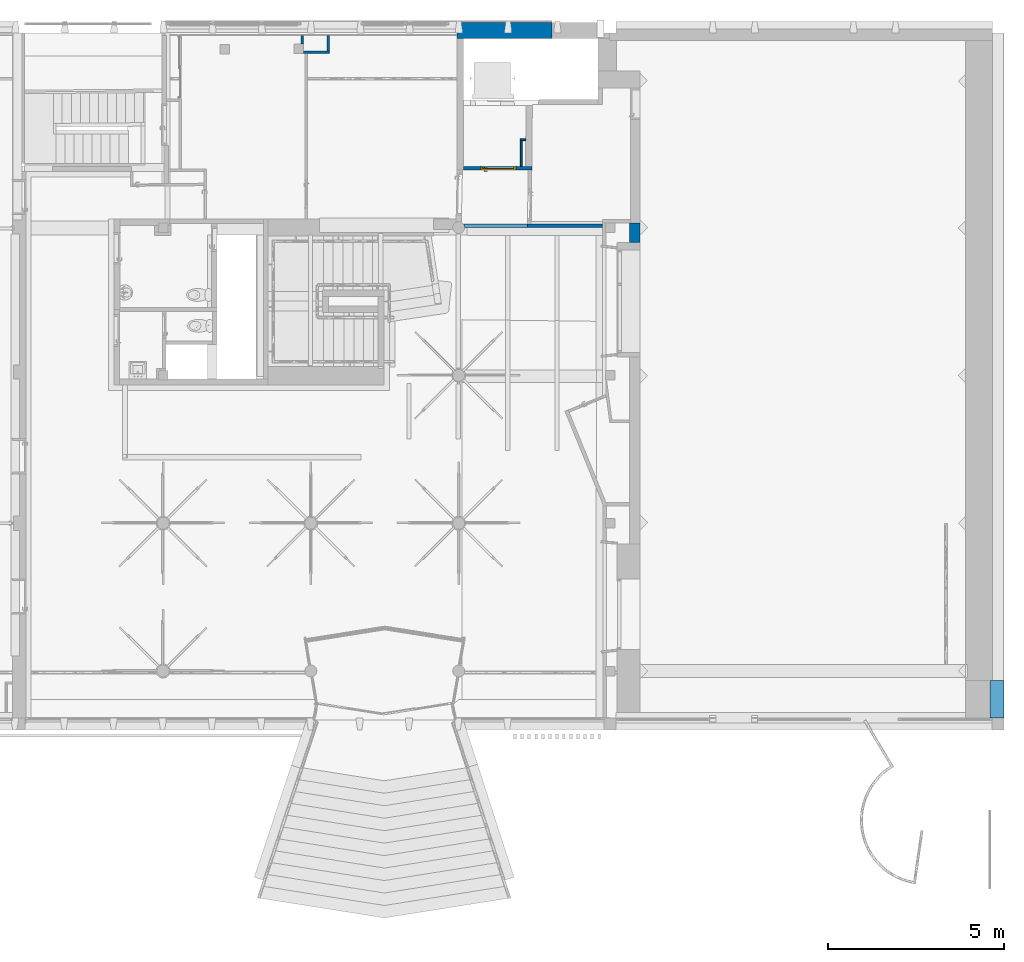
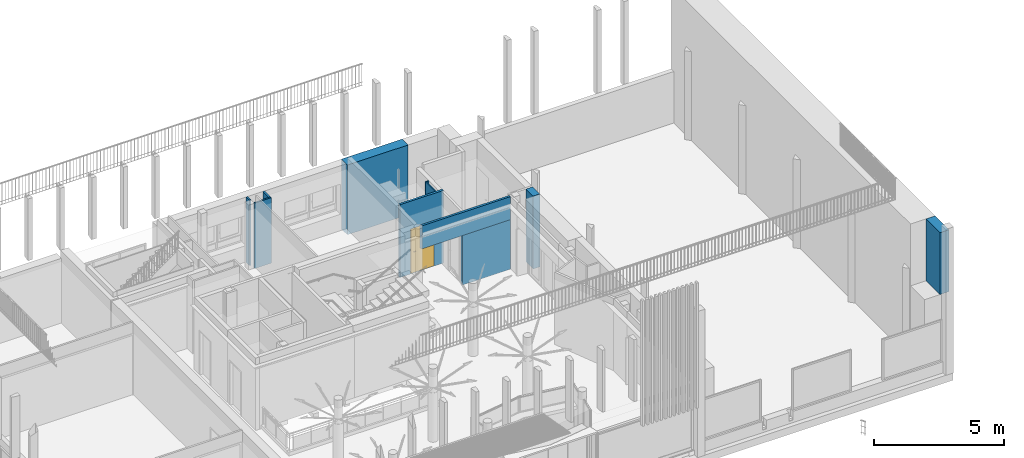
# One storey, part 22 of 65: 11 walls, 1 door, 1 opening.
"""IFC4 building model written with IfcOpenShell, lengths in metres."""

import ifcopenshell
import ifcopenshell.guid

model = None  # the IFC model being written
_history = None  # IfcOwnerHistory: only IFC2X3 demands one
_inside = {}  # id of a spatial element -> (the spatial element, [elements in it])
_under = {}  # id of a project, library or spatial element -> (it, [spatial elements below it])
_declared = {}  # id of a project -> (the project, [libraries it declares])
_typed = {}  # id of a type object -> (the type object, [elements of that type])
_made_of = {}  # id of a material, layer set ... -> (it, [elements and type objects made of it])


def new_model(schema):
    """Start an empty IFC model of exactly this schema.

    Asked for "IFC4X3", IfcOpenShell would pick the latest addendum, in which some entities
    have other attributes; the version numbers below select the first issue.
    IFC2X3 requires an IfcOwnerHistory on every rooted entity: one is made here for all.
    """
    global model, _history
    if schema == "IFC4X3":
        model = ifcopenshell.file(schema_version=(4, 3, 0, 0))
    else:
        model = ifcopenshell.file(schema=schema)
    _inside.clear()
    _under.clear()
    _declared.clear()
    _typed.clear()
    _made_of.clear()
    _history = None
    if model.schema == "IFC2X3":
        org = make("IfcOrganization", Name="unknown")
        user = make(
            "IfcPersonAndOrganization",
            ThePerson=make("IfcPerson", FamilyName="unknown"),
            TheOrganization=org,
        )
        app = make(
            "IfcApplication",
            ApplicationDeveloper=org,
            Version="unknown",
            ApplicationFullName="unknown",
            ApplicationIdentifier="unknown",
        )
        _history = make(
            "IfcOwnerHistory",
            OwningUser=user,
            OwningApplication=app,
            ChangeAction="ADDED",
            CreationDate=0,
        )
    return model


def make(cls, **values):
    """One entity of the class cls with the attributes given. An attribute that is None is left unset."""
    return model.create_entity(
        cls, **{name: value for name, value in values.items() if value is not None}
    )


def entity(cls, *values):
    """Any entity or typed value of the class cls, its attributes in the order of the schema. None: left unset."""
    e = model.create_entity(cls)
    for i, value in enumerate(values):
        if value is not None:
            e[i] = value
    return e


def rooted(cls, **values):
    """An entity with a GlobalId (a new one), such as an element, a storey or a relation."""
    return make(cls, GlobalId=ifcopenshell.guid.new(), OwnerHistory=_history, **values)


def si_unit(unit_type, name, prefix=None):
    """IfcSIUnit, for example si_unit("LENGTHUNIT", "METRE", prefix="MILLI")."""
    return make("IfcSIUnit", UnitType=unit_type, Prefix=prefix, Name=name)


def converted_unit(unit_type, name, factor, base, dimensions=None, offset=None):
    """IfcConversionBasedUnit, such as the inch: factor (a typed value) times the base unit."""
    return make(
        "IfcConversionBasedUnit"
        if offset is None
        else "IfcConversionBasedUnitWithOffset",
        ConversionOffset=offset,
        Dimensions=None
        if dimensions is None
        else entity("IfcDimensionalExponents", *dimensions),
        UnitType=unit_type,
        Name=name,
        ConversionFactor=make(
            "IfcMeasureWithUnit", ValueComponent=factor, UnitComponent=base
        ),
    )


def derived_unit(unit_type, elements):
    """IfcDerivedUnit: a product of units, each with its exponent."""
    return make(
        "IfcDerivedUnit",
        Elements=[
            make("IfcDerivedUnitElement", Unit=unit, Exponent=power)
            for unit, power in elements
        ],
        UnitType=unit_type,
    )


def assignment(units):
    """IfcUnitAssignment: the units of a project."""
    return None if units is None else make("IfcUnitAssignment", Units=units)


def point(xyz):
    """IfcCartesianPoint."""
    return None if xyz is None else make("IfcCartesianPoint", Coordinates=xyz)


def direction(xyz):
    """IfcDirection."""
    return None if xyz is None else make("IfcDirection", DirectionRatios=xyz)


def frame(location, z_axis=None, x_axis=None):
    """IfcAxis2Placement3D, a coordinate frame: its origin and axes. An axis left out is left unset."""
    return make(
        "IfcAxis2Placement3D",
        Location=point(location),
        Axis=direction(z_axis),
        RefDirection=direction(x_axis),
    )


def origin():
    """The frame at (0, 0, 0) with its axes left unset."""
    return frame((0.0, 0.0, 0.0))


def place(relative_to, where):
    """IfcLocalPlacement: puts the frame where relative to a parent placement (None: the world)."""
    return make(
        "IfcLocalPlacement", PlacementRelTo=relative_to, RelativePlacement=where
    )


def context(
    kind, dimensions, precision=None, world=None, true_north=None, identifier=None
):
    """IfcGeometricRepresentationContext, for example the 3D "Model" context."""
    return make(
        "IfcGeometricRepresentationContext",
        ContextIdentifier=identifier,
        ContextType=kind,
        CoordinateSpaceDimension=dimensions,
        Precision=precision,
        WorldCoordinateSystem=world,
        TrueNorth=true_north,
    )


def subcontext(parent, identifier, kind, view, scale=None):
    """IfcGeometricRepresentationSubContext, for example "Body" below "Model"."""
    return make(
        "IfcGeometricRepresentationSubContext",
        ContextIdentifier=identifier,
        ContextType=kind,
        ParentContext=parent,
        TargetScale=scale,
        TargetView=view,
    )


def project(units=None, contexts=None):
    """IfcProject with its units and contexts."""
    return rooted(
        "IfcProject",
        Name="project",
        RepresentationContexts=contexts,
        UnitsInContext=assignment(units),
    )


def spatial(cls, under=None, at=None, **own):
    """A site, building, storey or space (cls), placed at a placement, below another one or the project."""
    s = rooted(cls, ObjectPlacement=at, **own)
    if under is not None:
        _under.setdefault(under.id(), (under, []))[1].append(s)
    return s


def point_list(points):
    """IfcCartesianPointList2D or 3D."""
    cls = (
        "IfcCartesianPointList2D" if len(points[0]) == 2 else "IfcCartesianPointList3D"
    )
    return make(cls, CoordList=points)


def indexed_curve(points, segments=None, self_intersect=None):
    """IfcIndexedPolyCurve: lines and arcs through numbered points (the first is 1)."""
    return make(
        "IfcIndexedPolyCurve",
        Points=point_list(points),
        Segments=segments,
        SelfIntersect=self_intersect,
    )


def outline(outer, holes=None, kind="AREA"):
    """IfcArbitraryClosedProfileDef: a profile drawn as a closed curve; with holes, ...WithVoids."""
    if holes is None:
        return make("IfcArbitraryClosedProfileDef", ProfileType=kind, OuterCurve=outer)
    return make(
        "IfcArbitraryProfileDefWithVoids",
        ProfileType=kind,
        OuterCurve=outer,
        InnerCurves=holes,
    )


def extrude(swept, where, along, depth):
    """IfcExtrudedAreaSolid: the profile swept, set in the frame where, extruded along a direction by depth."""
    return make(
        "IfcExtrudedAreaSolid",
        SweptArea=swept,
        Position=where,
        ExtrudedDirection=direction(along),
        Depth=depth,
    )


def polygons(points, faces, closed=None, point_numbers=None):
    """IfcPolygonalFaceSet: a face is its outer loop, then its inner loops; points numbered from 1."""
    made = []
    for loops in faces:
        if len(loops) == 1:
            made.append(make("IfcIndexedPolygonalFace", CoordIndex=loops[0]))
        else:
            made.append(
                make(
                    "IfcIndexedPolygonalFaceWithVoids",
                    CoordIndex=loops[0],
                    InnerCoordIndices=loops[1:],
                )
            )
    return make(
        "IfcPolygonalFaceSet",
        Coordinates=point_list(points),
        Closed=closed,
        Faces=made,
        PnIndex=point_numbers,
    )


def shape(context_of_items, identifier, shape_type, items):
    """IfcShapeRepresentation: the items that make up one representation, for example the "Body"."""
    return make(
        "IfcShapeRepresentation",
        ContextOfItems=context_of_items,
        RepresentationIdentifier=identifier,
        RepresentationType=shape_type,
        Items=items,
    )


def source(mapping_origin, context_of_items, identifier, shape_type, items):
    """IfcRepresentationMap: a shape defined once, which mapped items show again and again."""
    return make(
        "IfcRepresentationMap",
        MappingOrigin=mapping_origin,
        MappedRepresentation=shape(context_of_items, identifier, shape_type, items),
    )


def transform(
    local_origin,
    x_axis=None,
    y_axis=None,
    z_axis=None,
    scale=None,
    scale2=None,
    scale3=None,
    uniform=True,
):
    """IfcCartesianTransformationOperator3D, or its non-uniform kind. x_axis, y_axis, z_axis: its Axis1, 2, 3."""
    if uniform:
        return make(
            "IfcCartesianTransformationOperator3D",
            Axis1=direction(x_axis),
            Axis2=direction(y_axis),
            LocalOrigin=point(local_origin),
            Scale=scale,
            Axis3=direction(z_axis),
        )
    return make(
        "IfcCartesianTransformationOperator3DnonUniform",
        Axis1=direction(x_axis),
        Axis2=direction(y_axis),
        LocalOrigin=point(local_origin),
        Scale=scale,
        Axis3=direction(z_axis),
        Scale2=scale2,
        Scale3=scale3,
    )


def mapped(mapping_source, mapping_target):
    """IfcMappedItem: shows the shape of a source again, moved by a transform."""
    return make(
        "IfcMappedItem", MappingSource=mapping_source, MappingTarget=mapping_target
    )


def material(Name=None, Category=None):
    """IfcMaterial."""
    return make("IfcMaterial", Name=Name, Category=Category)


def material_list(materials):
    """IfcMaterialList."""
    return make("IfcMaterialList", Materials=materials)


def layer(
    of_material, thickness, ventilated=None, Name=None, Category=None, Priority=None
):
    """IfcMaterialLayer: one layer of a wall or slab, of a material (None: an air gap)."""
    return make(
        "IfcMaterialLayer",
        Material=of_material,
        LayerThickness=thickness,
        IsVentilated=ventilated,
        Name=Name,
        Category=Category,
        Priority=Priority,
    )


def layer_set(layers, Name=None):
    """IfcMaterialLayerSet."""
    return make("IfcMaterialLayerSet", MaterialLayers=layers, LayerSetName=Name)


def constituent(of_material, Name=None, Category=None, fraction=None):
    """IfcMaterialConstituent: one of the materials an element consists of."""
    return make(
        "IfcMaterialConstituent",
        Name=Name,
        Material=of_material,
        Fraction=fraction,
        Category=Category,
    )


def constituent_set(constituents=None, Name=None):
    """IfcMaterialConstituentSet."""
    return make(
        "IfcMaterialConstituentSet", Name=Name, MaterialConstituents=constituents
    )


def made_of(thing, what):
    """Note that an element or type object is made of a material, layer set ...; save() writes the relation."""
    if what is not None:
        _made_of.setdefault(what.id(), (what, []))[1].append(thing)
    return thing


def type_object(cls, material=None, **own):
    """A type object (cls), such as IfcWallType, which elements share."""
    return made_of(rooted(cls, **own), material)


def type_shapes(of_type, sources):
    """Give a type object the sources (RepresentationMaps) that its elements show as mapped items."""
    of_type.RepresentationMaps = sources


def element(
    cls,
    number,
    at=None,
    inside=None,
    cuts=None,
    type_object=None,
    material=None,
    context=None,
    identifier="Body",
    shape_type=None,
    held_by="IfcProductDefinitionShape",
    body=None,
    shapes=None,
    **own,
):
    """One element of the class cls, such as IfcWall. Its Tag is "e" and its number.

    at: its placement. inside: the storey or other place that contains it. cuts: it is an
    opening in that element (IfcRelVoidsElement). A single representation is given by context,
    identifier, shape_type and body (its items); several are given by shapes. held_by: the class
    of the entity that holds the representations. save() writes the other relations.
    """
    e = rooted(cls, Tag="e%d" % number, ObjectPlacement=at, **own)
    if body is not None:
        shapes = [shape(context, identifier, shape_type, body)]
    if shapes is not None:
        e.Representation = make(held_by, Representations=shapes)
    if inside is not None:
        _inside.setdefault(inside.id(), (inside, []))[1].append(e)
    if cuts is not None:
        rooted(
            "IfcRelVoidsElement", RelatingBuildingElement=cuts, RelatedOpeningElement=e
        )
    if type_object is not None:
        _typed.setdefault(type_object.id(), (type_object, []))[1].append(e)
    return made_of(e, material)


def fill(opening, filler):
    """IfcRelFillsElement: the door or window that sits in an opening."""
    return rooted(
        "IfcRelFillsElement",
        RelatingOpeningElement=opening,
        RelatedBuildingElement=filler,
    )


def aggregate(whole, parts):
    """IfcRelAggregates: a whole, such as a stair, and the parts it consists of."""
    return rooted("IfcRelAggregates", RelatingObject=whole, RelatedObjects=parts)


def save(model, path):
    """Write the relations noted so far, then the file.

    IfcRelAggregates (storeys below a building ...), IfcRelContainedInSpatialStructure (elements
    in a storey), IfcRelDefinesByType, IfcRelAssociatesMaterial and IfcRelDeclares: one each for
    every whole, place, type object, material and project.
    """
    for whole, parts in _under.values():
        aggregate(whole, parts)
    for where, things in _inside.values():
        rooted(
            "IfcRelContainedInSpatialStructure",
            RelatedElements=things,
            RelatingStructure=where,
        )
    for kind, things in _typed.values():
        rooted("IfcRelDefinesByType", RelatedObjects=things, RelatingType=kind)
    for what, things in _made_of.values():
        rooted("IfcRelAssociatesMaterial", RelatedObjects=things, RelatingMaterial=what)
    for by, libraries in _declared.values():
        rooted("IfcRelDeclares", RelatingContext=by, RelatedDefinitions=libraries)
    model.write(path)


model = new_model("IFC4")

# Units and contexts
model_context = context("Model", 3, precision=1e-05, world=origin(), true_north=direction((6.12303176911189e-17, 1.0)))
body_context = subcontext(model_context, "Body", "Model", "MODEL_VIEW")
ifc_project = project(units=[si_unit("LENGTHUNIT", "METRE"), si_unit("AREAUNIT", "SQUARE_METRE"), si_unit("VOLUMEUNIT", "CUBIC_METRE"), converted_unit("PLANEANGLEUNIT", "DEGREE", entity("IfcRatioMeasure", 0.0174532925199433), si_unit("PLANEANGLEUNIT", "RADIAN"), dimensions=[0, 0, 0, 0, 0, 0, 0]), si_unit("MASSUNIT", "GRAM", prefix="KILO"), derived_unit("MASSDENSITYUNIT", [(si_unit("MASSUNIT", "GRAM", prefix="KILO"), 1), (si_unit("LENGTHUNIT", "METRE"), -3)]), derived_unit("MOMENTOFINERTIAUNIT", [(si_unit("LENGTHUNIT", "METRE"), 4)]), si_unit("TIMEUNIT", "SECOND"), si_unit("FREQUENCYUNIT", "HERTZ"), si_unit("THERMODYNAMICTEMPERATUREUNIT", "DEGREE_CELSIUS"), derived_unit("THERMALTRANSMITTANCEUNIT", [(si_unit("MASSUNIT", "GRAM", prefix="KILO"), 1), (si_unit("THERMODYNAMICTEMPERATUREUNIT", "KELVIN"), -1), (si_unit("TIMEUNIT", "SECOND"), -3)]), derived_unit("VOLUMETRICFLOWRATEUNIT", [(si_unit("LENGTHUNIT", "METRE"), 3), (si_unit("TIMEUNIT", "SECOND"), -1)]), si_unit("ELECTRICCURRENTUNIT", "AMPERE"), si_unit("ELECTRICVOLTAGEUNIT", "VOLT"), si_unit("POWERUNIT", "WATT"), si_unit("FORCEUNIT", "NEWTON", prefix="KILO"), si_unit("ILLUMINANCEUNIT", "LUX"), si_unit("LUMINOUSFLUXUNIT", "LUMEN"), si_unit("LUMINOUSINTENSITYUNIT", "CANDELA"), derived_unit("USERDEFINED", [(si_unit("MASSUNIT", "GRAM", prefix="KILO"), -1), (si_unit("LENGTHUNIT", "METRE"), -2), (si_unit("TIMEUNIT", "SECOND"), 3), (si_unit("LUMINOUSFLUXUNIT", "LUMEN"), 1)]), derived_unit("LINEARVELOCITYUNIT", [(si_unit("LENGTHUNIT", "METRE"), 1), (si_unit("TIMEUNIT", "SECOND"), -1)]), si_unit("PRESSUREUNIT", "PASCAL"), derived_unit("USERDEFINED", [(si_unit("LENGTHUNIT", "METRE"), -2), (si_unit("MASSUNIT", "GRAM", prefix="KILO"), 1), (si_unit("TIMEUNIT", "SECOND"), -2)]), derived_unit("LINEARFORCEUNIT", [(si_unit("MASSUNIT", "GRAM", prefix="KILO"), 1), (si_unit("LENGTHUNIT", "METRE"), 1), (si_unit("TIMEUNIT", "SECOND"), -2), (si_unit("LENGTHUNIT", "METRE"), -1)]), derived_unit("PLANARFORCEUNIT", [(si_unit("MASSUNIT", "GRAM", prefix="KILO"), 1), (si_unit("LENGTHUNIT", "METRE"), 1), (si_unit("TIMEUNIT", "SECOND"), -2), (si_unit("LENGTHUNIT", "METRE"), -2)])], contexts=[model_context])

# Site, building, storey
site_placement = place(None, origin())
site = spatial("IfcSite", under=ifc_project, at=site_placement, Name="Default", CompositionType="ELEMENT")
building_placement = place(site_placement, origin())
building = spatial("IfcBuilding", under=site, at=building_placement, Name="HOTEL CONSULAIRE BOULOGNE SUR MER", CompositionType="ELEMENT")
storey_placement = place(building_placement, origin())
storey = spatial("IfcBuildingStorey", under=building, at=storey_placement, Name="Niveau 0", CompositionType="ELEMENT", Elevation=1.31981936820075e-13)

# Walls
ifc_material_1 = material(Name="Mur par défaut", Category="Divers")
ifc_layer_1 = layer(ifc_material_1, 0.05, Name="Mur par défaut", Category="Divers")
ifc_layer_set_1 = layer_set([ifc_layer_1], Name="Mur de base:Générique - Int.50")
wall_type_1 = type_object("IfcWallType", Name="Mur de base:Générique - Int.50", PredefinedType="NOTDEFINED", material=ifc_layer_set_1)
wall_1_placement = place(storey_placement, frame((9.07710757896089, -13.1213552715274, -0.0200000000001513), z_axis=(0.0, 0.0, 1.0), x_axis=(-1.0, 0.0, 0.0)))
element("IfcWall", 1, at=wall_1_placement, inside=storey, type_object=wall_type_1, material=ifc_layer_set_1, Name="Mur de base:Générique - Int.50", ObjectType="Mur de base:Générique - Int.50", PredefinedType="NOTDEFINED", context=body_context, shape_type="SweptSolid", body=[
    extrude(outline(indexed_curve([(0.15085822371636, -0.0249999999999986), (0.15085822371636, 0.0250000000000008), (0.10085822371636, 0.0250000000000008), (0.000481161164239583, 0.0250000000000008), (0.0, -0.0249999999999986), (0.15085822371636, -0.0249999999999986)], self_intersect=False)), origin(), (0.0, 0.0, 1.0), 3.41112697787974),
])
wall_2_placement = place(storey_placement, frame((8.95124935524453, -13.1463552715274, -0.0200000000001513), z_axis=(0.0, 0.0, 1.0), x_axis=(0.0, -1.0, 0.0)))
element("IfcWall", 2, at=wall_2_placement, inside=storey, type_object=wall_type_1, material=ifc_layer_set_1, Name="Mur de base:Générique - Int.50", ObjectType="Mur de base:Générique - Int.50", PredefinedType="NOTDEFINED", context=body_context, shape_type="SweptSolid", body=[
    extrude(outline(indexed_curve([(0.726000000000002, 0.0249999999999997), (0.0, 0.0249999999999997), (0.0, -0.0249999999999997), (0.726000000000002, -0.0249999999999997), (0.726000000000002, 0.0249999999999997)], self_intersect=False)), origin(), (0.0, 0.0, 1.0), 3.4111269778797),
])
ifc_layer_2 = layer(ifc_material_1, 0.07, Name="Mur par défaut", Category="Divers")
ifc_layer_set_2 = layer_set([ifc_layer_2], Name="Mur de base:Int. Plâtre 70 mm")
wall_type_2 = type_object("IfcWallType", Name="Mur de base:Int. Plâtre 70 mm", PredefinedType="NOTDEFINED", material=ifc_layer_set_2)
wall_3_placement = place(storey_placement, frame((2.76311770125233, -10.6359187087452, -0.0200000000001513)))
element("IfcWall", 3, at=wall_3_placement, inside=storey, type_object=wall_type_2, material=ifc_layer_set_2, Name="Mur de base:Int. Plâtre 70 mm", ObjectType="Mur de base:Int. Plâtre 70 mm", PredefinedType="NOTDEFINED", context=body_context, shape_type="SweptSolid", body=[
    extrude(outline(indexed_curve([(0.742, 0.0350000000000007), (-1.02161208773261e-16, 0.0350000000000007), (1.02161208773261e-16, -0.0350000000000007), (0.742, -0.0350000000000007), (0.742, 0.0350000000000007)], self_intersect=False)), origin(), (0.0, 0.0, 1.0), 3.07112697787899),
])
wall_4_placement = place(storey_placement, frame((3.47011770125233, -10.6009187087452, -0.0200000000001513), z_axis=(0.0, 0.0, 1.0), x_axis=(0.0, 1.0, 0.0)))
element("IfcWall", 4, at=wall_4_placement, inside=storey, type_object=wall_type_2, material=ifc_layer_set_2, Name="Mur de base:Int. Plâtre 70 mm", ObjectType="Mur de base:Int. Plâtre 70 mm", PredefinedType="NOTDEFINED", context=body_context, shape_type="SweptSolid", body=[
    extrude(outline(indexed_curve([(0.450594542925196, 0.0349999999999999), (-6.13614709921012e-17, 0.0350000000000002), (6.13614709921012e-17, -0.0350000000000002), (0.450594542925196, -0.0350000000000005), (0.450594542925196, 0.0349999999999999)], self_intersect=False)), origin(), (0.0, 0.0, 1.0), 3.07112697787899),
])
wall_5_placement = place(storey_placement, frame((2.72935114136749, -10.4009187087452, -0.0200000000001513), z_axis=(0.0, 0.0, 1.0), x_axis=(0.0, 1.0, 0.0)))
element("IfcWall", 5, at=wall_5_placement, inside=storey, type_object=wall_type_2, material=ifc_layer_set_2, Name="Mur de base:Int. Plâtre 70 mm", ObjectType="Mur de base:Int. Plâtre 70 mm", PredefinedType="NOTDEFINED", context=body_context, shape_type="SweptSolid", body=[
    extrude(outline(indexed_curve([(0.250594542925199, 0.0349999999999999), (-4.08569676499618e-17, 0.0350000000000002), (4.08569676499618e-17, -0.0350000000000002), (0.250594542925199, -0.0350000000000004), (0.250594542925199, 0.0349999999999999)], self_intersect=False)), origin(), (0.0, 0.0, 1.0), 3.07112697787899),
])

# Wall, opening, door
ifc_layer_3 = layer(ifc_material_1, 0.1, Name="Mur par défaut", Category="Divers")
ifc_layer_set_3 = layer_set([ifc_layer_3], Name="Mur de base:Générique - Int. 100 mm")
wall_type_3 = type_object("IfcWallType", Name="Mur de base:Générique - Int. 100 mm", PredefinedType="NOTDEFINED", material=ifc_layer_set_3)
wall_6_placement = place(storey_placement, frame((7.3089802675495, -13.9223552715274, -0.0200000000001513)))
wall_6 = element("IfcWall", 6, at=wall_6_placement, inside=storey, type_object=wall_type_3, material=ifc_layer_set_3, Name="Mur de base:Générique - Int. 100 mm", ObjectType="Mur de base:Générique - Int. 100 mm", PredefinedType="NOTDEFINED", context=body_context, shape_type="Tessellation", body=[
    polygons([(6.4801961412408e-16, -0.0500000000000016, -2.15727435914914e-16), (1.83969420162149, -0.0500000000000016, -2.15727435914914e-16), (1.93970570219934, -0.0500000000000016, -2.15727435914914e-16), (1.93970570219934, -0.0500000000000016, 3.41112697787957), (6.4801961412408e-16, -0.0500000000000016, 3.41112697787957), (1.491, -0.0500000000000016, 2.095), (1.491, -0.0500000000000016, 0.0199999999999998), (0.491000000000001, -0.0500000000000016, 0.0199999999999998), (0.491000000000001, -0.0500000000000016, 2.095), (1.94122235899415, 0.0499999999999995, -2.15727435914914e-16), (1.94066802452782, 0.0499999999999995, -2.15727435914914e-16), (1.76065969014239, 0.0499999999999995, -2.15727435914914e-16), (1.66726908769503, 0.0499999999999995, -2.15727435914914e-16), (1.61726908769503, 0.0499999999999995, -2.15727435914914e-16), (1.37749578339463e-15, 0.0499999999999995, -2.15727435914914e-16), (2.94628654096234e-16, 0.0499999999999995, 3.41112697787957), (1.61726908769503, 0.0499999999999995, 3.41112697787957), (1.66726908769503, 0.0499999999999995, 3.41112697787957), (1.76065969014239, 0.0499999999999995, 3.41112697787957), (1.94066802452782, 0.0499999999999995, 3.41112697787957), (1.94122235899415, 0.0499999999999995, 3.41112697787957), (1.491, 0.0499999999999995, 0.0199999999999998), (1.491, 0.0499999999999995, 2.095), (0.491, 0.0499999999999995, 2.095), (0.491, 0.0499999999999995, 0.0199999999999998)], [[[1, 2, 3, 4, 5], [9, 6, 7, 8]], [[21, 10, 11, 12, 13, 14, 15, 16, 17, 18, 19, 20], [23, 24, 25, 22]], [[1, 15, 14, 13, 12, 11, 10, 3, 2]], [[24, 23, 6, 9]], [[4, 21, 20, 19, 18, 17, 16, 5]], [[22, 25, 8, 7]], [[15, 1, 5, 16]], [[22, 7, 6, 23]], [[24, 9, 8, 25]], [[4, 3, 10, 21]]], closed=True),
])
opening_placement = place(wall_6_placement, frame((1.491, 0.0499999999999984, 0.0200000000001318)))
opening = element("IfcOpeningElement", 7, at=opening_placement, cuts=wall_6, Name="Int. Simple:PP0.93x2.04:1", ObjectType="Opening", PredefinedType="OPENING", context=body_context, shape_type="SweptSolid", body=[
    extrude(outline(indexed_curve([(0.0, -2.81027286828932e-30), (2.075, -2.81027286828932e-30), (2.075, 1.0), (0.0, 1.0), (0.0, -2.81027286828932e-30)], self_intersect=False)), frame((0.0, 0.0, 0.0), z_axis=(0.0, -1.0, 0.0), x_axis=(0.0, 0.0, 1.0)), (0.0, 0.0, 1.0), 0.1),
])
ifc_material_2 = material(Name="Finition Peinture - Blanc satiné", Category="Peinture")
ifc_constituent_1 = constituent(ifc_material_2, Name="Finition Peinture - Blanc satiné", Category="Matériaux")
ifc_material_3 = material(Name="Bois - Panneau de porte", Category="Bois")
ifc_constituent_2 = constituent(ifc_material_3, Name="Bois - Panneau de porte", Category="Matériaux")
ifc_material_4 = material(Name="Bois - Cadre de porte", Category="Bois")
ifc_constituent_3 = constituent(ifc_material_4, Name="Bois - Cadre de porte", Category="Matériaux")
ifc_constituent_set = constituent_set(constituents=[ifc_constituent_1, ifc_constituent_2, ifc_constituent_3], Name="MaterialConstituentSet")
ifc_material_list = material_list([ifc_material_4, ifc_material_2, ifc_material_3, ifc_material_4])
door_type = type_object("IfcDoorType", Name="Int. Simple:PP0.93x2.04", OperationType="NOTDEFINED", PredefinedType="DOOR", material=ifc_material_list)
shared_shape = source(origin(), body_context, "Body", "Tessellation", [
    polygons([(0.075000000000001, -0.00500000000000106, 0.870000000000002), (0.0846472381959, -0.00500000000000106, 0.866003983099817), (0.0950000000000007, -0.00500000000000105, 0.86464101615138), (0.105352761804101, -0.00500000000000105, 0.866003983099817), (0.115, -0.00500000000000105, 0.870000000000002), (0.114999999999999, -0.00500000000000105, 1.08), (0.1053527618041, -0.00500000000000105, 1.08399601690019), (0.0949999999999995, -0.00500000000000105, 1.08535898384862), (0.0846472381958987, -0.00500000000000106, 1.08399601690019), (0.0749999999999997, -0.00500000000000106, 1.08), (0.0749999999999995, -1.06594733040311e-15, 0.870000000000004), (0.0749999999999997, -1.06594733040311e-15, 1.08), (0.0846472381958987, -1.06594733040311e-15, 1.08399601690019), (0.0949999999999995, -1.05748743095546e-15, 1.08535898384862), (0.1053527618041, -1.05748743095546e-15, 1.08399601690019), (0.114999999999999, -1.04902753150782e-15, 1.08), (0.115, -1.04902753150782e-15, 0.870000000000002), (0.105352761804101, -1.05748743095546e-15, 0.866003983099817), (0.0950000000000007, -1.05748743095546e-15, 0.86464101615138), (0.0846472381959, -1.06594733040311e-15, 0.866003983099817)], [[[4, 5, 6, 7, 8, 9, 10, 1, 2, 3]], [[15, 16, 17, 18, 19, 20, 11, 12, 13, 14]], [[11, 20, 2, 1]], [[2, 20, 19, 3]], [[19, 18, 4, 3]], [[18, 17, 5, 4]], [[6, 5, 17, 16]], [[16, 15, 7, 6]], [[7, 15, 14, 8]], [[14, 13, 9, 8]], [[13, 12, 10, 9]], [[1, 10, 12, 11]]], closed=True),
    polygons([(0.114999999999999, 0.0399999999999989, 1.08), (0.1053527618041, 0.0399999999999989, 1.08399601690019), (0.0949999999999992, 0.0399999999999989, 1.08535898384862), (0.0846472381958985, 0.0399999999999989, 1.08399601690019), (0.0749999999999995, 0.0399999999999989, 1.08), (0.075000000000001, 0.0399999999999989, 0.870000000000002), (0.0846472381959, 0.0399999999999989, 0.866003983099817), (0.0950000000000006, 0.0399999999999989, 0.86464101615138), (0.105352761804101, 0.0399999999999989, 0.866003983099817), (0.115, 0.0399999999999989, 0.870000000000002), (0.114999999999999, 0.0449999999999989, 1.08), (0.115, 0.0449999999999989, 0.870000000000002), (0.105352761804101, 0.0449999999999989, 0.866003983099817), (0.0950000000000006, 0.0449999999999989, 0.86464101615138), (0.0846472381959, 0.0449999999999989, 0.866003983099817), (0.0749999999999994, 0.0449999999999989, 0.870000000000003), (0.0749999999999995, 0.0449999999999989, 1.08), (0.0846472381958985, 0.0449999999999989, 1.08399601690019), (0.0949999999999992, 0.0449999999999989, 1.08535898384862), (0.1053527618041, 0.0449999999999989, 1.08399601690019)], [[[9, 10, 1, 2, 3, 4, 5, 6, 7, 8]], [[20, 11, 12, 13, 14, 15, 16, 17, 18, 19]], [[11, 20, 2, 1]], [[2, 20, 19, 3]], [[19, 18, 4, 3]], [[18, 17, 5, 4]], [[6, 5, 17, 16]], [[16, 15, 7, 6]], [[7, 15, 14, 8]], [[14, 13, 9, 8]], [[13, 12, 10, 9]], [[1, 10, 12, 11]]], closed=True),
    polygons([(0.0889999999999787, -0.00500000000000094, 1.007), (0.0929747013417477, -0.00500000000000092, 1.00778044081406), (0.097025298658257, -0.0050000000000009, 1.00778044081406), (0.101000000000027, -0.00500000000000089, 1.00699999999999), (0.101000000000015, -0.00500000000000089, 0.993000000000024), (0.0970252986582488, -0.0050000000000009, 0.992219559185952), (0.0929747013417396, -0.00500000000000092, 0.99221955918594), (0.0889999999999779, -0.00500000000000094, 0.992999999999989), (0.0889999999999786, -0.0326509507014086, 1.007), (0.0929747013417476, -0.0310045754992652, 1.00778044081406), (0.0970252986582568, -0.0293267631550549, 1.00778044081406), (0.101000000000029, -0.0276803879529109, 1.007), (0.101000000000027, -0.0276803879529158, 0.993000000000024), (0.0970252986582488, -0.0293267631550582, 0.992219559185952), (0.0929747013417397, -0.0310045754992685, 0.99221955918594), (0.0889999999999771, -0.0326509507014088, 0.992999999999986), (0.107377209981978, -0.0510281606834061, 1.007), (0.109023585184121, -0.0470534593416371, 1.00778044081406), (0.110701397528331, -0.0430028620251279, 1.00778044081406), (0.112347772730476, -0.0390281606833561, 1.007), (0.112347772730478, -0.0390281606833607, 0.993000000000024), (0.110701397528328, -0.0430028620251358, 0.992219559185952), (0.109023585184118, -0.0470534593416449, 0.99221955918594), (0.107377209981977, -0.0510281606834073, 0.992999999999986), (0.195018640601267, -0.0510281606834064, 1.00699999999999), (0.195018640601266, -0.051028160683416, 0.992999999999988), (0.195018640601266, -0.0470534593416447, 0.99221955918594), (0.195018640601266, -0.0430028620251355, 0.992219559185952), (0.195018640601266, -0.0390281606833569, 0.993000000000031), (0.195018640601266, -0.0390281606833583, 1.007), (0.195018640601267, -0.0430028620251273, 1.00778044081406), (0.195018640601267, -0.0470534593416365, 1.00778044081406), (0.147307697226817, -0.0510281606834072, 1.007), (0.152860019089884, -0.045028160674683, 1.0078786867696), (0.15368320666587, -0.039028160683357, 1.007), (0.147307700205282, -0.0510281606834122, 0.992999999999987), (0.152860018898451, -0.0450281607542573, 0.992121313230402), (0.153683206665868, -0.0390281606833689, 0.993000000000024)], [[[2, 3, 4, 5, 6, 7, 8, 1]], [[21, 20, 35, 30, 29, 38]], [[9, 10, 2, 1]], [[10, 18, 19, 11, 3, 2]], [[11, 12, 4, 3]], [[5, 4, 12, 13]], [[26, 27, 28, 29, 30, 31, 32, 25]], [[13, 14, 6, 5]], [[14, 22, 23, 15, 7, 6]], [[15, 16, 8, 7]], [[1, 8, 16, 9]], [[17, 18, 10, 9]], [[19, 20, 12, 11]], [[13, 12, 20, 21]], [[21, 22, 14, 13]], [[23, 24, 16, 15]], [[9, 16, 24, 17]], [[33, 32, 34]], [[25, 32, 33]], [[18, 17, 33]], [[34, 35, 19]], [[20, 19, 35]], [[35, 31, 30]], [[32, 31, 34]], [[31, 35, 34]], [[18, 33, 34]], [[18, 34, 19]], [[38, 28, 37]], [[36, 37, 27]], [[21, 38, 22]], [[38, 29, 28]], [[26, 36, 27]], [[24, 23, 36]], [[36, 23, 37]], [[23, 22, 37]], [[22, 38, 37]], [[27, 37, 28]], [[17, 24, 36, 26, 25, 33]]], closed=True),
    polygons([(0.10100000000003, 0.0449999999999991, 0.993000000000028), (0.101000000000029, 0.0449999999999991, 1.007), (0.0970252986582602, 0.0449999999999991, 1.00778044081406), (0.092974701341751, 0.0449999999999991, 1.00778044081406), (0.0889999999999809, 0.044999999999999, 1.007), (0.0889999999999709, 0.044999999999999, 0.992999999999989), (0.0929747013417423, 0.0449999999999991, 0.99221955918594), (0.0970252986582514, 0.0449999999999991, 0.992219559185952), (0.10100000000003, 0.067485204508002, 0.993000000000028), (0.10100000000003, 0.0674852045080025, 1.007), (0.0970252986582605, 0.0691315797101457, 1.00778044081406), (0.0929747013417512, 0.070809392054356, 1.00778044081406), (0.088999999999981, 0.0724557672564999, 1.007), (0.0889999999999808, 0.072455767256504, 0.992999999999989), (0.092974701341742, 0.0708093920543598, 0.99221955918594), (0.0970252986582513, 0.0691315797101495, 0.992219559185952), (0.112485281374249, 0.0789704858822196, 0.993000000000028), (0.112485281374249, 0.0789704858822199, 1.007), (0.110838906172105, 0.0829451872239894, 1.00778044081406), (0.109161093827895, 0.0869957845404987, 1.00778044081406), (0.107514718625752, 0.0909704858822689, 1.007), (0.107514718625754, 0.090970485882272, 0.992999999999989), (0.109161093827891, 0.0869957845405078, 0.99221955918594), (0.110838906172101, 0.0829451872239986, 0.992219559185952), (0.195045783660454, 0.0789704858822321, 0.993000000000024), (0.195045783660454, 0.0829451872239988, 0.992219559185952), (0.195045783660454, 0.086995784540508, 0.99221955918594), (0.195045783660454, 0.0909704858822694, 0.992999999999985), (0.195045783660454, 0.0909704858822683, 1.007), (0.195045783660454, 0.0869957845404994, 1.00778044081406), (0.195045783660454, 0.0829451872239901, 1.00778044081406), (0.195045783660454, 0.0789704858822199, 1.007), (0.147445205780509, 0.0909704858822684, 1.007), (0.152942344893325, 0.0849704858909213, 1.0078786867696), (0.153765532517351, 0.0789704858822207, 1.007), (0.147445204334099, 0.0909704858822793, 0.992999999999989), (0.152942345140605, 0.0849704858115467, 0.992121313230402), (0.153765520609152, 0.0789704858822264, 0.993000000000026)], [[[4, 5, 6, 7, 8, 1, 2, 3]], [[18, 17, 38, 25, 32, 35]], [[2, 1, 9, 10]], [[25, 26, 27, 28, 29, 30, 31, 32]], [[10, 11, 3, 2]], [[11, 19, 20, 12, 4, 3]], [[12, 13, 5, 4]], [[6, 5, 13, 14]], [[14, 15, 7, 6]], [[15, 23, 24, 16, 8, 7]], [[16, 9, 1, 8]], [[10, 9, 17, 18]], [[18, 19, 11, 10]], [[20, 21, 13, 12]], [[14, 13, 21, 22]], [[22, 23, 15, 14]], [[24, 17, 9, 16]], [[35, 31, 34]], [[33, 34, 30]], [[18, 35, 19]], [[35, 32, 31]], [[29, 33, 30]], [[21, 20, 33]], [[33, 20, 34]], [[20, 19, 34]], [[19, 35, 34]], [[30, 34, 31]], [[21, 33, 29, 28, 36, 22]], [[36, 27, 37]], [[28, 27, 36]], [[23, 22, 36]], [[37, 38, 24]], [[17, 24, 38]], [[38, 26, 25]], [[27, 26, 37]], [[26, 38, 37]], [[23, 36, 37]], [[23, 37, 24]]], closed=True),
    polygons([(0.0349999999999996, 0.04, 2.04), (0.965, 0.04, 2.04), (0.965, 0.04, 0.0), (0.0349999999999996, 0.04, 0.0), (0.0349999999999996, 3.38395977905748e-17, 2.04), (0.0349999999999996, 3.38395977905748e-17, 0.0), (0.965, 3.38395977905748e-17, 0.0), (0.965, 3.38395977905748e-17, 2.04)], [[[4, 1, 2, 3]], [[7, 8, 5, 6]], [[2, 1, 5, 8]], [[3, 2, 8, 7]], [[4, 3, 7, 6]], [[1, 4, 6, 5]]], closed=True),
    polygons([(-1.53631773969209e-14, 0.0, 0.0), (-1.53631773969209e-14, 0.100000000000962, 0.0), (0.0499999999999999, 0.100000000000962, 0.0), (0.0499999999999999, 0.040000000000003, 0.0), (0.0349999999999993, 0.040000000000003, 0.0), (0.0349999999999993, 0.0, 0.0), (-1.51601398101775e-14, 0.0, 2.07500000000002), (-1.51601398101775e-14, 0.100000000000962, 2.07500000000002), (1.00000000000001, 0.100000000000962, 2.07500000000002), (1.00000000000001, 0.100000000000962, 3.88816484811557e-25), (0.95, 0.100000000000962, 3.59657255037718e-24), (0.95, 0.100000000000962, 2.025), (0.05, 0.100000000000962, 2.025), (0.05, 0.040000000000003, 2.025), (0.95, 0.040000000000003, 2.025), (0.95, 0.040000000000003, 2.24110802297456e-24), (0.965, 0.040000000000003, -4.78103047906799e-25), (0.965, 0.040000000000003, 2.04), (0.0349999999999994, 0.040000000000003, 2.04), (0.0349999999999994, 0.0, 2.04), (0.965, 0.0, 2.04), (0.965, 0.0, -2.84752548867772e-24), (1.00000000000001, 0.0, -3.95490158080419e-25), (1.00000000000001, 0.0, 2.07500000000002)], [[[5, 6, 1, 2, 3, 4]], [[11, 10, 23, 22, 17, 16]], [[14, 13, 12, 15]], [[20, 19, 18, 21]], [[2, 1, 7, 8]], [[15, 12, 11, 16]], [[21, 18, 17, 22]], [[3, 2, 8, 9, 10, 11, 12, 13]], [[4, 3, 13, 14]], [[6, 5, 19, 20]], [[9, 24, 23, 10]], [[16, 17, 18, 19, 5, 4, 14, 15]], [[22, 23, 24, 7, 1, 6, 20, 21]], [[8, 7, 24, 9]]], closed=True),
    polygons([(0.0149999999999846, 0.100000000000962, 0.0), (-0.0150000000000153, 0.100000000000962, 0.0), (-0.0150000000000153, 0.105000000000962, 0.0), (0.0149999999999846, 0.105000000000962, 0.0), (0.0149999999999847, 0.100000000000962, 2.06000000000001), (0.98499999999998, 0.100000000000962, 2.06000000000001), (0.98499999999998, 0.100000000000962, -1.80158911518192e-24), (1.01499999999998, 0.100000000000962, -9.00794238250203e-25), (1.01499999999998, 0.100000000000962, 2.09000000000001), (-0.0150000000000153, 0.100000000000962, 2.09000000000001), (-0.0150000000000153, 0.105000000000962, 2.09000000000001), (1.01499999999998, 0.105000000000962, 2.09000000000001), (1.01499999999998, 0.105000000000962, -5.48159974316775e-24), (0.98499999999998, 0.105000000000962, -4.34281663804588e-24), (0.98499999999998, 0.105000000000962, 2.06000000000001), (0.0149999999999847, 0.105000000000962, 2.06000000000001)], [[[1, 2, 3, 4]], [[14, 13, 8, 7]], [[5, 16, 15, 6]], [[7, 8, 9, 10, 2, 1, 5, 6]], [[3, 2, 10, 11]], [[6, 15, 14, 7]], [[4, 3, 11, 12, 13, 14, 15, 16]], [[1, 4, 16, 5]], [[12, 9, 8, 13]], [[11, 10, 9, 12]]], closed=True),
    polygons([(0.98499999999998, -0.005, 5.41433564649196e-16), (0.98499999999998, 0.0, 5.41433564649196e-16), (1.01499999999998, 0.0, 5.41433564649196e-16), (1.01499999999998, -0.005, 5.41433564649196e-16), (0.0149999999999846, -0.005, 0.0), (-0.0150000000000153, -0.005, 0.0), (-0.0150000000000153, 0.0, 0.0), (0.0149999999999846, 0.0, 0.0), (0.0149999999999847, -0.005, 2.06000000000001), (0.98499999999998, -0.005, 2.06000000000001), (1.01499999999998, -0.005, 2.09000000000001), (-0.0150000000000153, -0.005, 2.09000000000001), (-0.0150000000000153, 0.0, 2.09000000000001), (1.01499999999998, 0.0, 2.09000000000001), (0.98499999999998, 0.0, 2.06000000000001), (0.0149999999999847, 0.0, 2.06000000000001)], [[[2, 3, 4, 1]], [[6, 7, 8, 5]], [[9, 16, 15, 10]], [[1, 4, 11, 12, 6, 5, 9, 10]], [[7, 6, 12, 13]], [[10, 15, 2, 1]], [[8, 7, 13, 14, 3, 2, 15, 16]], [[5, 8, 16, 9]], [[14, 11, 4, 3]], [[13, 12, 11, 14]]], closed=True),
])
type_shapes(door_type, [shared_shape])
door_placement = place(opening_placement, frame((-1.0, -0.0999999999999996, 0.0)))
door = element("IfcDoor", 8, at=door_placement, inside=storey, type_object=door_type, material=ifc_constituent_set, Name="Int. Simple:PP0.93x2.04", ObjectType="Int. Simple:PP0.93x2.04", OperationType="NOTDEFINED", OverallHeight=2.075, OverallWidth=1.0, PredefinedType="DOOR", context=body_context, shape_type="MappedRepresentation", body=[
    mapped(shared_shape, transform((0.0, 0.0, 0.0), scale=1.0)),
])
fill(opening, door)

# Walls
wall_7_placement = place(storey_placement, frame((11.2620652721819, -15.565909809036, -0.0200000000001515), z_axis=(0.0, 0.0, 1.0), x_axis=(-1.0, 0.0, 0.0)))
element("IfcWall", 9, at=wall_7_placement, inside=storey, type_object=wall_type_3, material=ifc_layer_set_3, Name="Mur de base:Générique - Int. 100 mm", ObjectType="Mur de base:Générique - Int. 100 mm", PredefinedType="NOTDEFINED", context=body_context, shape_type="SweptSolid", body=[
    extrude(outline(indexed_curve([(2.13680122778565, -0.0500000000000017), (2.13831788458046, 0.0499999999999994), (-5.01716863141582e-17, 0.0499999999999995), (5.01716863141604e-17, -0.0500000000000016), (2.0367897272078, -0.0500000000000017), (2.13680122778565, -0.0500000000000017)], self_intersect=False)), origin(), (0.0, 0.0, 1.0), 2.32615028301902),
])
wall_8_placement = place(storey_placement, frame((11.2620652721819, -15.565909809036, 2.30615028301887), z_axis=(0.0, 0.0, 1.0), x_axis=(-1.0, 0.0, 0.0)))
element("IfcWall", 10, at=wall_8_placement, inside=storey, type_object=wall_type_3, material=ifc_layer_set_3, Name="Mur de base:Générique - Int. 100 mm", ObjectType="Mur de base:Générique - Int. 100 mm", PredefinedType="NOTDEFINED", context=body_context, shape_type="SweptSolid", body=[
    extrude(outline(indexed_curve([(-1.9685749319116, -0.0499999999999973), (1.98483629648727, -0.0500000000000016), (1.97882345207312, -0.0411624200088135), (1.97337790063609, -0.0319644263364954), (1.96852117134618, -0.022442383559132), (1.96427246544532, -0.0126339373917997), (1.96064858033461, -0.00257786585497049), (1.95766384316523, 0.00768607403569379), (1.95533005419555, 0.0181173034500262), (1.95365644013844, 0.0286745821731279), (1.95264961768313, 0.0393161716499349), (1.95231356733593, 0.0499999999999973), (-1.9685749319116, 0.0500000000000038), (-1.9685749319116, -0.0499999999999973)], self_intersect=False)), frame((1.9685749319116, 0.0, 0.0)), (0.0, 0.0, 1.0), 1.08037669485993),
])
ifc_layer_4 = layer(ifc_material_1, 0.3, Name="Mur par défaut", Category="Divers")
ifc_layer_set_4 = layer_set([ifc_layer_4], Name="Mur de base:Générique - Int. 300 mm")
wall_type_4 = type_object("IfcWallType", Name="Mur de base:Générique - Int. 300 mm", PredefinedType="NOTDEFINED", material=ifc_layer_set_4)
wall_9_placement = place(storey_placement, frame((12.1764778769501, -16.0364277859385, -0.0200000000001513), z_axis=(0.0, 0.0, 1.0), x_axis=(0.0, 1.0, 0.0)))
element("IfcWall", 11, at=wall_9_placement, inside=storey, type_object=wall_type_4, material=ifc_layer_set_4, Name="Mur de base:Générique - Int. 300 mm", ObjectType="Mur de base:Générique - Int. 300 mm", PredefinedType="NOTDEFINED", context=body_context, shape_type="SweptSolid", body=[
    extrude(outline(indexed_curve([(0.550575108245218, 0.150000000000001), (-1.73933166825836e-16, 0.150000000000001), (1.73933166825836e-16, -0.150000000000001), (0.550575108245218, -0.15), (0.550575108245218, 0.150000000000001)], self_intersect=False)), origin(), (0.0, 0.0, 1.0), 3.41112697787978),
])
ifc_layer_5 = layer(ifc_material_1, 0.46, Name="Mur par défaut", Category="Divers")
ifc_layer_set_5 = layer_set([ifc_layer_5], Name="Mur de base:Générique - Ext.460")
wall_type_5 = type_object("IfcWallType", Name="Mur de base:Générique - Ext.460", PredefinedType="NOTDEFINED", material=ifc_layer_set_5)
wall_10_placement = place(storey_placement, frame((7.12898026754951, -10.01032416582, -0.220000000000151)))
element("IfcWall", 12, at=wall_10_placement, inside=storey, type_object=wall_type_5, material=ifc_layer_set_5, Name="Mur de base:Générique - Ext.460", ObjectType="Mur de base:Générique - Ext.460", PredefinedType="NOTDEFINED", context=body_context, shape_type="SweptSolid", body=[
    extrude(outline(indexed_curve([(2.69644380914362, 0.23), (-9.10788855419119e-16, 0.23), (9.10788855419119e-16, -0.23), (2.69644380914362, -0.23), (2.69644380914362, 0.23)], self_intersect=False)), origin(), (0.0, 0.0, 1.0), 3.27110477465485),
])
ifc_layer_6 = layer(ifc_material_1, 0.4, Name="Mur par défaut", Category="Divers")
ifc_layer_set_6 = layer_set([ifc_layer_6], Name="Mur de base:Générique - Ext.400")
wall_type_6 = type_object("IfcWallType", Name="Mur de base:Générique - Ext.400", PredefinedType="NOTDEFINED", material=ifc_layer_set_6)
wall_11_placement = place(storey_placement, frame((22.467935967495, -28.480909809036, 3.39112697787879), z_axis=(0.0, 0.0, 1.0), x_axis=(0.0, -1.0, 0.0)))
element("IfcWall", 13, at=wall_11_placement, inside=storey, type_object=wall_type_6, material=ifc_layer_set_6, Name="Mur de base:Générique - Ext.400", ObjectType="Mur de base:Générique - Ext.400", PredefinedType="NOTDEFINED", context=body_context, shape_type="SweptSolid", body=[
    extrude(outline(indexed_curve([(1.07315729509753, 0.200000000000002), (0.0, 0.200000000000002), (0.0, -0.200000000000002), (1.07315729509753, -0.200000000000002), (1.07315729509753, 0.200000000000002)], self_intersect=False)), origin(), (0.0, 0.0, 1.0), 2.9006145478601),
])

save(model, "model.ifc")
